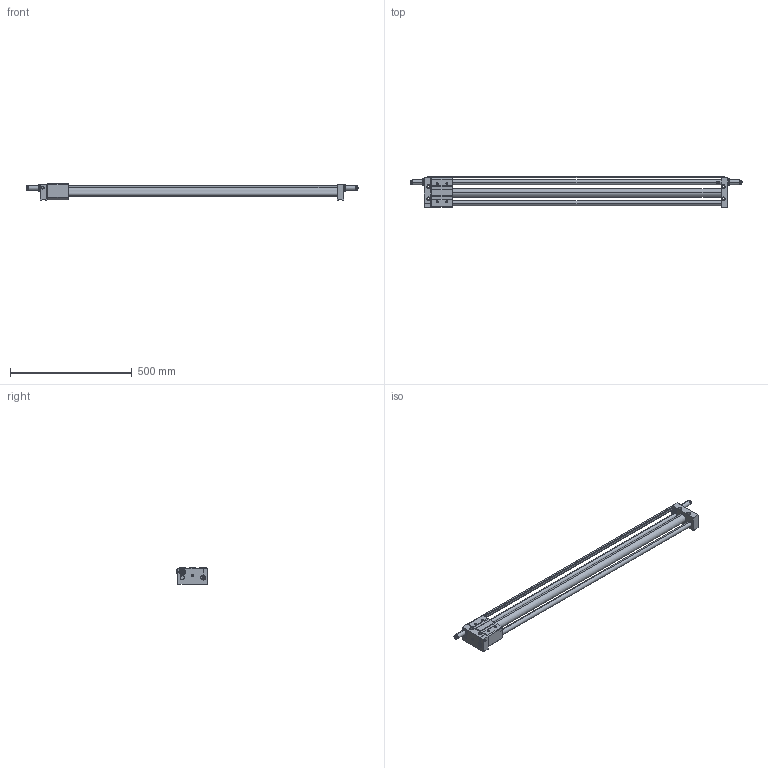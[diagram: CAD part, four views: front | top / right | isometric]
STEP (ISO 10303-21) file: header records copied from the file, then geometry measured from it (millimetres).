
FILE_DESCRIPTION (( 'STEP AP214' ), '1' );
FILE_NAME ('SMT32X1100SA_0_+__.STEP', '2024-12-30T15:52:39', ( '' ), ( '' ), 'SwSTEP 2.0', 'SolidWorks 2023', '' );
FILE_SCHEMA (( 'AUTOMOTIVE_DESIGN' ));
Length unit declared in the file: millimetre
Products named in the file (3): SMT32X1100SA_0_+__; SMT-32X1100-S(0)_body; SMT-32X1100-S-A(0)_rod
Assembly tree (2 placements, depth 2):
  SMT32X1100SA_0_+__
    SMT-32X1100-S-A(0)_rod
    SMT-32X1100-S(0)_body
Bounding box: 1363 x 128.4 x 66 mm (x, y, z)
Volume: 2891427.7 mm3; surface area: 522656.6 mm2
Topology: 2 solids, 5 shells, 408 faces, 956 edges, 600 vertices
Faces by surface type: cylinder 150, plane 138, cone 112, bspline 8
Entity records: 11920 total; most frequent: CARTESIAN_POINT 2213, DIRECTION 2160, ORIENTED_EDGE 1888, EDGE_CURVE 944, AXIS2_PLACEMENT_3D 851, VERTEX_POINT 600, EDGE_LOOP 488, LINE 458
